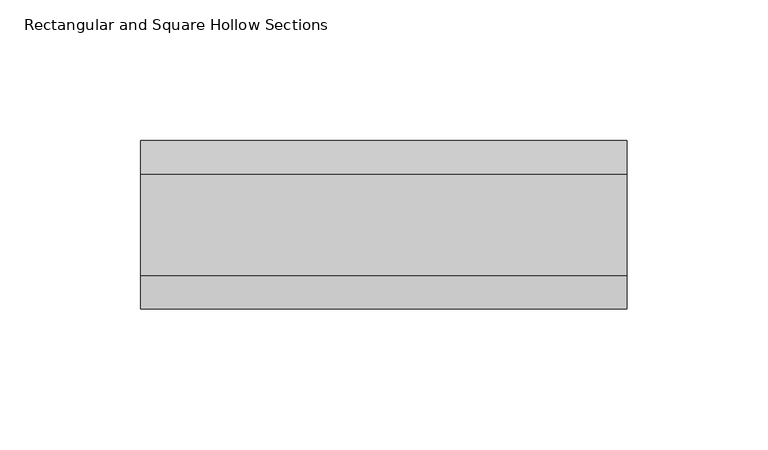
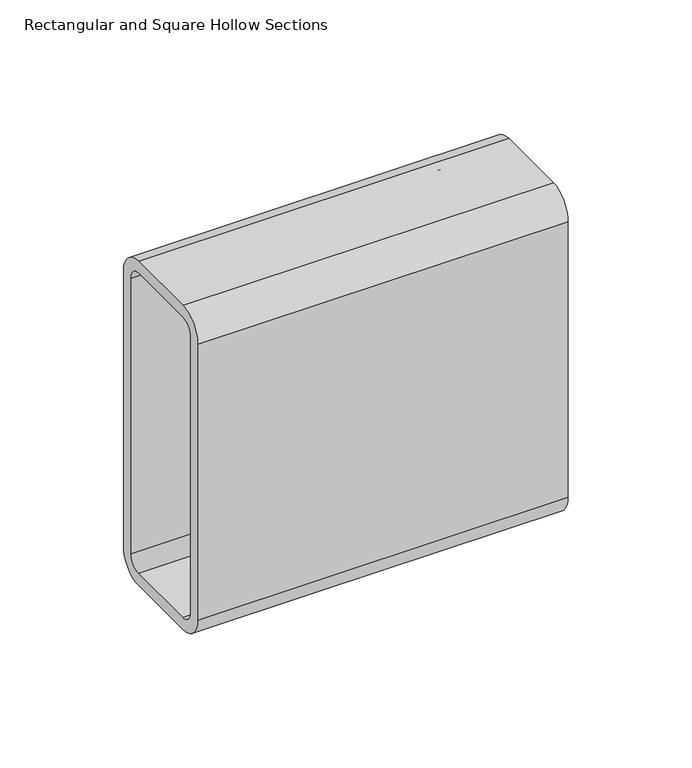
"""IFC4 building model written with IfcOpenShell, lengths in millimetres: beam geometry, Rectangular and Square Hollow Sections : TREC160x60x6."""

from ifc_helpers import new_model, si_unit, point, frame, frame_2d, origin, place, context, project, spatial, polyline, circle_curve, trimmed, segment, composite_curve, outline, extrude, source, transform, mapped, element, save


def rectangular_and_square_hollow_sections_f2b40b3e(model_context):
    return source(origin(), model_context, "Body", "SweptSolid", [
        extrude(outline(composite_curve([segment(polyline([(30.0, 68.0), (30.0, -68.0)]), True, "CONTINUOUS"), segment(trimmed(circle_curve(frame_2d((18.0, -68.0)), 12.0), [point((30.0, -68.0))], [point((18.0, -80.0))], False, "CARTESIAN"), True, "CONTINUOUS"), segment(polyline([(18.0, -80.0), (-18.0, -80.0)]), True, "CONTINUOUS"), segment(trimmed(circle_curve(frame_2d((-18.0, -68.0)), 12.0), [point((-18.0, -80.0))], [point((-30.0, -68.0))], False, "CARTESIAN"), True, "CONTINUOUS"), segment(polyline([(-30.0, -68.0), (-30.0, 68.0)]), True, "CONTINUOUS"), segment(trimmed(circle_curve(frame_2d((-18.0, 68.0)), 12.0), [point((-30.0, 68.0))], [point((-18.0, 80.0))], False, "CARTESIAN"), True, "CONTINUOUS"), segment(polyline([(-18.0, 80.0), (18.0, 80.0)]), True, "CONTINUOUS"), segment(trimmed(circle_curve(frame_2d((18.0, 68.0)), 12.0), [point((18.0, 80.0))], [point((30.0, 68.0))], False, "CARTESIAN"), True, "CONTINUOUS")], self_intersect=False), holes=[composite_curve([segment(trimmed(circle_curve(frame_2d((-18.0, 68.0)), 6.0), [point((-18.0, 74.0))], [point((-24.0, 68.0))], True, "CARTESIAN"), True, "CONTINUOUS"), segment(polyline([(-24.0, 68.0), (-24.0, -68.0)]), True, "CONTINUOUS"), segment(trimmed(circle_curve(frame_2d((-18.0, -68.0)), 6.0), [point((-24.0, -68.0))], [point((-18.0, -74.0))], True, "CARTESIAN"), True, "CONTINUOUS"), segment(polyline([(-18.0, -74.0), (18.0, -74.0)]), True, "CONTINUOUS"), segment(trimmed(circle_curve(frame_2d((18.0, -68.0)), 6.0), [point((18.0, -74.0))], [point((24.0, -68.0))], True, "CARTESIAN"), True, "CONTINUOUS"), segment(polyline([(24.0, -68.0), (24.0, 68.0)]), True, "CONTINUOUS"), segment(trimmed(circle_curve(frame_2d((18.0, 68.0)), 6.0), [point((24.0, 68.0))], [point((18.0, 74.0))], True, "CARTESIAN"), True, "CONTINUOUS"), segment(polyline([(18.0, 74.0), (-18.0, 74.0)]), True, "CONTINUOUS")], self_intersect=False)]), frame((-93.0, 0.0, 0.0), z_axis=(1.0, 0.0, 0.0), x_axis=(0.0, 1.0, 0.0)), (0.0, 0.0, 1.0), 173.0),
    ])


if __name__ == "__main__":
    model = new_model("IFC4")
    model_context = context("Model", 3, world=origin())
    ifc_project = project(units=[si_unit("LENGTHUNIT", "METRE", prefix="MILLI")], contexts=[model_context])
    site = spatial("IfcSite", under=ifc_project)
    building = spatial("IfcBuilding", under=site)
    placement = place(None, origin())
    rectangular_and_square_hollow_sections_shape = rectangular_and_square_hollow_sections_f2b40b3e(model_context)
    element("IfcBeam", 1, ObjectType="Rectangular and Square Hollow Sections : TREC160x60x6", at=placement, inside=building, context=model_context, shape_type="MappedRepresentation", body=[
        mapped(rectangular_and_square_hollow_sections_shape, transform((0.0, 0.0, 0.0), x_axis=(1.0, 0.0, 0.0), y_axis=(0.0, 1.0, 0.0), z_axis=(0.0, 0.0, 1.0))),
    ])
    save(model, "model.ifc")
